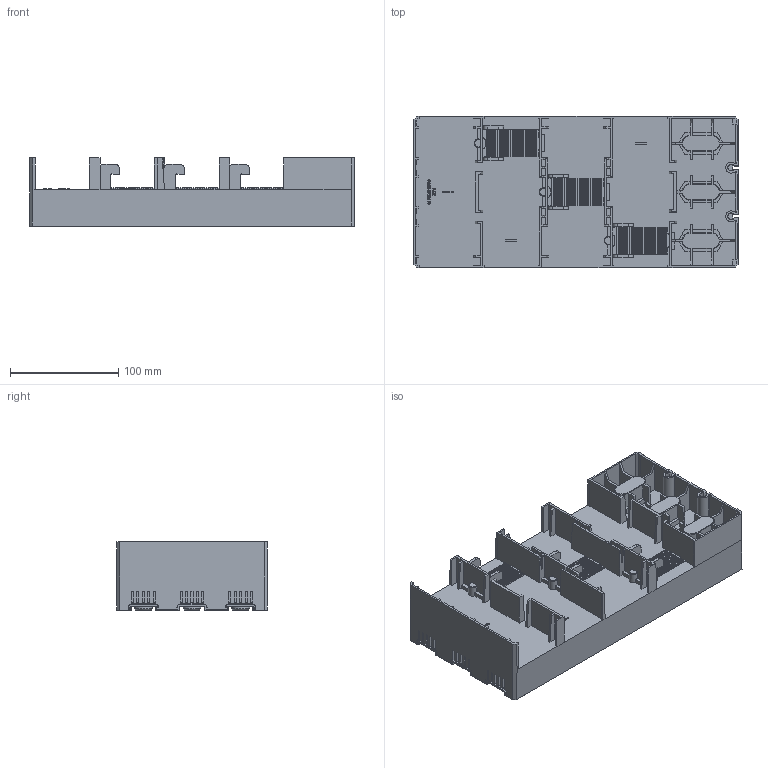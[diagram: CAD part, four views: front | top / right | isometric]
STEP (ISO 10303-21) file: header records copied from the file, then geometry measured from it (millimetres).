
FILE_DESCRIPTION (( 'STEP AP203' ), '1' );
FILE_NAME ('55043.STEP', '2021-08-31T03:21:21', ( '' ), ( '' ), 'SwSTEP 2.0', 'SolidWorks 2017', '' );
FILE_SCHEMA (( 'CONFIG_CONTROL_DESIGN' ));
Length unit declared in the file: millimetre
Products named in the file (2): 55043
Bounding box: 300 x 140 x 63 mm (x, y, z)
Volume: 1370165.4 mm3; surface area: 278583.9 mm2
Topology: 1 solids, 26 shells, 3697 faces, 10561 edges, 6839 vertices
Faces by surface type: plane 3123, cylinder 487, bspline 44, cone 43
Full cylindrical faces by diameter (mm): 3 x4, 3.3 x4, 4.2 x7, 4.3 x8, 6.2 x2, 6.5 x2, 6.8 x10, 7.5 x6, 8 x3, 10 x2, 10.5 x2, 11 x1, 13 x3, 16.5 x3
Entity records: 118904 total; most frequent: CARTESIAN_POINT 23347, ORIENTED_EDGE 20812, DIRECTION 18171, EDGE_CURVE 10406, VECTOR 9281, LINE 9281, VERTEX_POINT 6793, AXIS2_PLACEMENT_3D 4445
